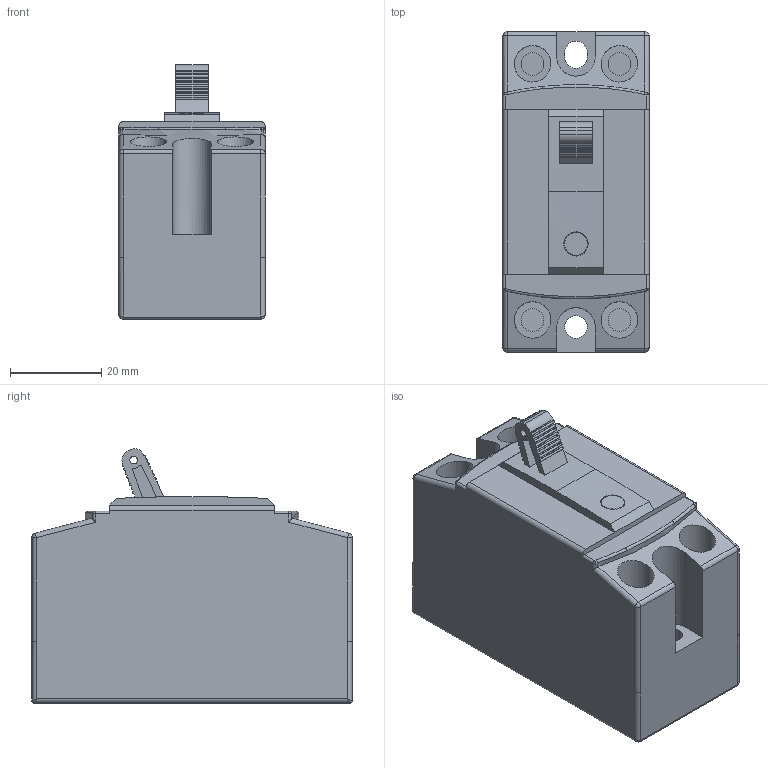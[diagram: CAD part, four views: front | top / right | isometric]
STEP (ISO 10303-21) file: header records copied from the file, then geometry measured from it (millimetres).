
FILE_DESCRIPTION (( 'STEP AP203' ), '1' );
FILE_NAME ('32S.STEP', '2018-01-04T00:41:16', ( '' ), ( '' ), 'SwSTEP 2.0', 'SolidWorks 2015', '' );
FILE_SCHEMA (( 'CONFIG_CONTROL_DESIGN' ));
Length unit declared in the file: millimetre
Products named in the file (1): 32S
Bounding box: 32 x 70 x 55.66 mm (x, y, z)
Volume: 84180.8 mm3; surface area: 17546.3 mm2
Topology: 1 solids, 1 shells, 211 faces, 562 edges, 356 vertices
Faces by surface type: cylinder 93, plane 92, bspline 12, sphere 8, torus 6
Entity records: 7059 total; most frequent: CARTESIAN_POINT 1774, ORIENTED_EDGE 1108, DIRECTION 1076, EDGE_CURVE 554, AXIS2_PLACEMENT_3D 370, VERTEX_POINT 356, VECTOR 336, LINE 336
